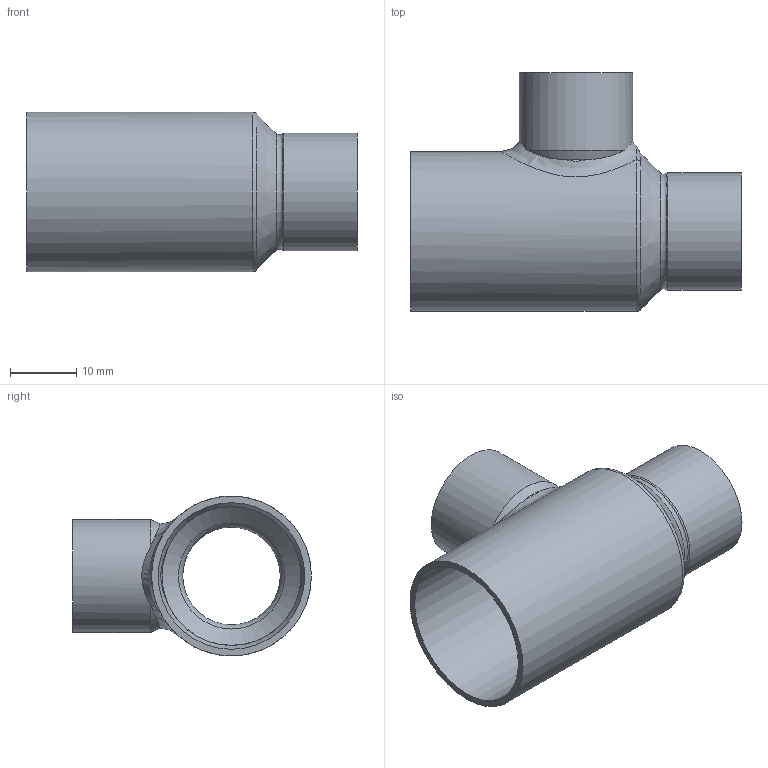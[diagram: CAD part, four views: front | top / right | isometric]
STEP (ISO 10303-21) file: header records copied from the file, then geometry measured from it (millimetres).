
FILE_DESCRIPTION(/* description */ (''),/* implementation_level */ '2;1');
FILE_NAME(/* name */ 'G:\Technik\Management\ontwikkeling\Ontwikkeling + Leveringsdokumenten + proefberichten\Sanha Ternat\Ternat 2024\Step files\5130221515_3d gem.stp',/* time_stamp */ '2024-02-29T09:21:38+01:00',/* author */ ('vdvijverd'),/* organization */ (''),/* preprocessor_version */ 'ST-DEVELOPER v19',/* originating_system */ 'Autodesk Inventor 2023',/* authorisation */ '');
FILE_SCHEMA (('AUTOMOTIVE_DESIGN { 1 0 10303 214 3 1 1 }'));
Length unit declared in the file: millimetre
Products named in the file (1): 5130221515_3d gem
Bounding box: 50 x 36.08 x 24.15 mm (x, y, z)
Volume: 4772.2 mm3; surface area: 7957.1 mm2
Topology: 1 solids, 1 shells, 30 faces, 80 edges, 51 vertices
Faces by surface type: cylinder 11, torus 7, cone 6, bspline 3, plane 3
Full cylindrical faces by diameter (mm): 15.1 x1, 15.12 x1, 17.1 x1, 17.7 x1, 21 x1, 22.15 x1, 24.15 x1
Entity records: 1461 total; most frequent: CARTESIAN_POINT 679, ORIENTED_EDGE 160, DIRECTION 155, EDGE_CURVE 80, AXIS2_PLACEMENT_3D 72, VERTEX_POINT 51, CIRCLE 44, EDGE_LOOP 33
